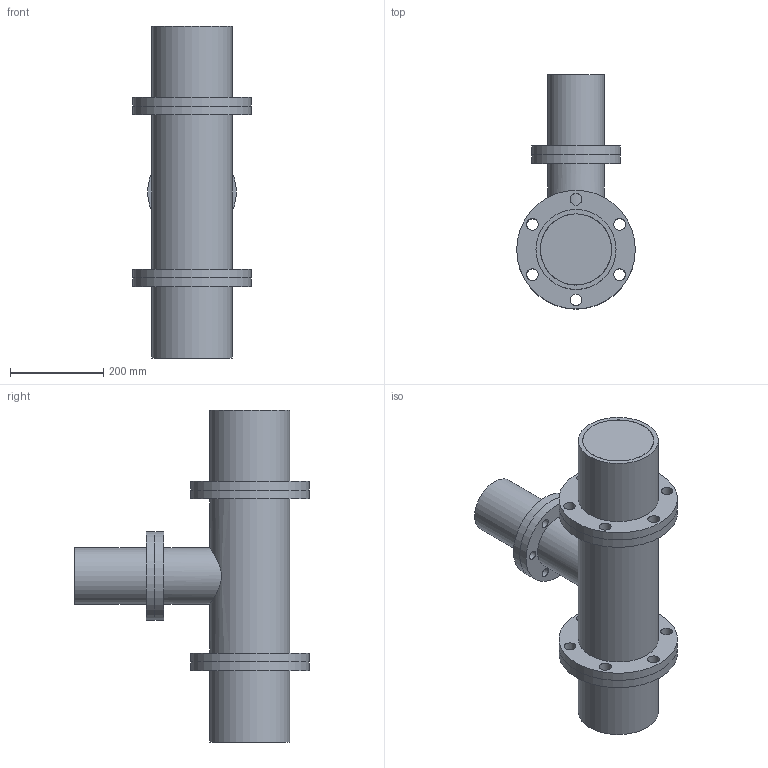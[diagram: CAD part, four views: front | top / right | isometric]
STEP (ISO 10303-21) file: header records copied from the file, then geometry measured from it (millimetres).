
FILE_DESCRIPTION( ( 'STEP Version 203' ), '1' );
FILE_NAME( ' ', '02/23/12 14:29:00', ( 'sasilves' ), ( ' ' ), 'PSStep 14.0', 'DesignModeler STEP Output', ' ' );
FILE_SCHEMA( ( 'AUTOMOTIVE_DESIGN { 1 0 10303 214 1 1 1 1 }' ) );
Length unit declared in the file: metre
Products named in the file (7): Solid 1; Solid 2; Solid 3; Solid 4; 1; 2; 3
Bounding box: 254 x 501.65 x 711.2 mm (x, y, z)
Volume: 6813611.2 mm3; surface area: 1334572.9 mm2
Topology: 4 solids, 7 shells, 70 faces, 180 edges, 126 vertices
Faces by surface type: cylinder 52, plane 18
Full cylindrical faces by diameter (mm): 19.05 x12, 25.4 x24, 101.6 x2, 120.65 x2, 152.4 x3, 171.45 x3, 190.5 x2, 254 x4
Entity records: 2343 total; most frequent: CARTESIAN_POINT 633, DIRECTION 358, EDGE_LOOP 211, ORIENTED_EDGE 211, AXIS2_PLACEMENT_3D 179, FACE_OUTER_BOUND 119, EDGE_CURVE 107, VERTEX_POINT 107
